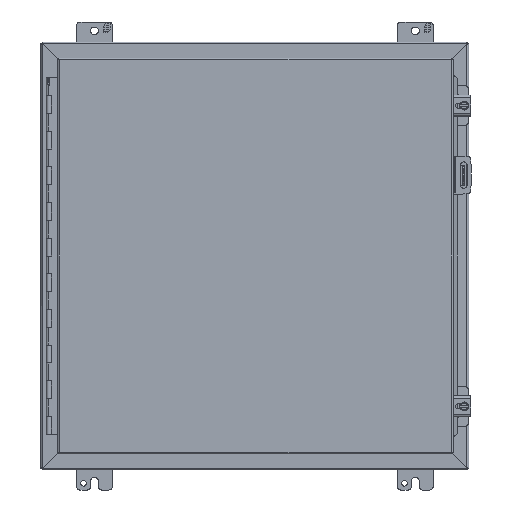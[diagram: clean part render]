
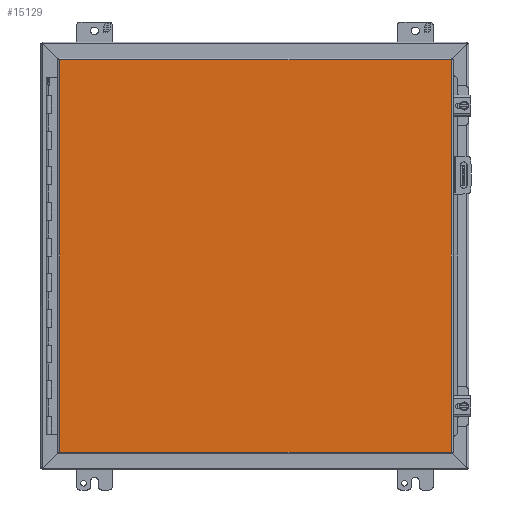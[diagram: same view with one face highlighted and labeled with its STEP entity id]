
A CAD part, front view. The second image highlights one B-rep face of the part: STEP entity #15129.
In plain terms, the highlighted planar face has unit normal (0, -1, 0).
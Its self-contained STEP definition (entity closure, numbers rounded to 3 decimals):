
#1394=LINE('',#22994,#2843);
#1395=LINE('',#22997,#2844);
#1396=LINE('',#22999,#2845);
#1397=LINE('',#23001,#2846);
#2843=VECTOR('',#18769,1000.);
#2844=VECTOR('',#18770,1000.);
#2845=VECTOR('',#18771,1000.);
#2846=VECTOR('',#18772,1000.);
#5882=ORIENTED_EDGE('',*,*,#9284,.T.);
#5883=ORIENTED_EDGE('',*,*,#9285,.T.);
#5884=ORIENTED_EDGE('',*,*,#9286,.T.);
#5885=ORIENTED_EDGE('',*,*,#9287,.T.);
#9284=EDGE_CURVE('',#11124,#11125,#1394,.T.);
#9285=EDGE_CURVE('',#11125,#11126,#1395,.T.);
#9286=EDGE_CURVE('',#11126,#11127,#1396,.T.);
#9287=EDGE_CURVE('',#11127,#11124,#1397,.T.);
#11124=VERTEX_POINT('',#22995);
#11125=VERTEX_POINT('',#22996);
#11126=VERTEX_POINT('',#22998);
#11127=VERTEX_POINT('',#23000);
#12702=EDGE_LOOP('',(#5882,#5883,#5884,#5885));
#13659=FACE_BOUND('',#12702,.T.);
#14450=PLANE('',#16325);
#15129=ADVANCED_FACE('',(#13659),#14450,.T.);
#16325=AXIS2_PLACEMENT_3D('',#22993,#18767,#18768);
#18767=DIRECTION('',(0.,-1.,0.));
#18768=DIRECTION('',(0.,0.,-1.));
#18769=DIRECTION('',(0.,0.,-1.));
#18770=DIRECTION('',(1.,0.,0.));
#18771=DIRECTION('',(0.,0.,1.));
#18772=DIRECTION('',(-1.,0.,0.));
#22993=CARTESIAN_POINT('',(-279.044,0.,-279.26));
#22994=CARTESIAN_POINT('',(-279.044,0.,279.26));
#22995=CARTESIAN_POINT('',(-279.044,0.,279.26));
#22996=CARTESIAN_POINT('',(-279.044,0.,-279.26));
#22997=CARTESIAN_POINT('',(-279.044,0.,-279.26));
#22998=CARTESIAN_POINT('',(279.044,0.,-279.26));
#22999=CARTESIAN_POINT('',(279.044,0.,-279.26));
#23000=CARTESIAN_POINT('',(279.044,0.,279.26));
#23001=CARTESIAN_POINT('',(279.044,0.,279.26));
